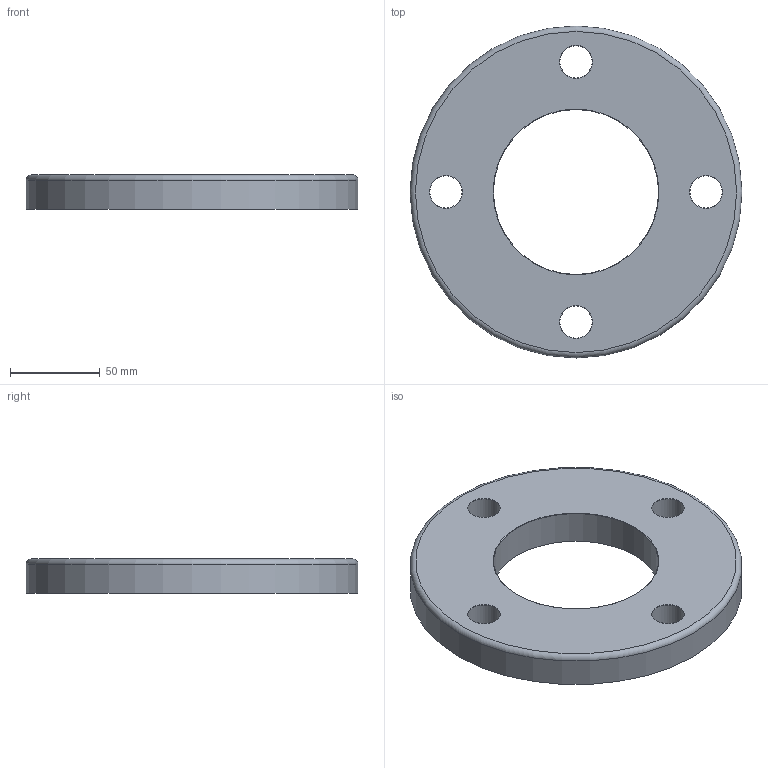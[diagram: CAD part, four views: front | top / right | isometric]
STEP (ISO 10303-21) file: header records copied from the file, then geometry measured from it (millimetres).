
FILE_DESCRIPTION(/* description */ ('PVC-U flangia libera BS 4504 DIN 8063 / PVC-U backing ring drilled to BS 4504 DIN 8063'),/* implementation_level */ '2;1');
FILE_NAME(/* name */ 'C:\Users\POLYPIPE\Desktop\DATASET INVENTOR\LIBRERIA EFFAST\RACCORDI 3DxWEB\RDR\3D_RDRFLD\3D_RDRFLD0750.stp',/* time_stamp */ '2018-01-19T14:22:33+01:00',/* author */ ('POLYPIPE'),/* organization */ ('Polypipe Italia s.r.l.'),/* preprocessor_version */ 'ST-DEVELOPER v16.1',/* originating_system */ 'Autodesk Inventor 2016',/* authorisation */ '');
FILE_SCHEMA (('CONFIG_CONTROL_DESIGN'));
Length unit declared in the file: millimetre
Products named in the file (1): 3D_RDRFLD
Bounding box: 185 x 185 x 19 mm (x, y, z)
Volume: 363961.7 mm3; surface area: 58464.9 mm2
Topology: 1 solids, 1 shells, 14 faces, 30 edges, 18 vertices
Faces by surface type: torus 6, cylinder 6, plane 2
Full cylindrical faces by diameter (mm): 18 x4, 92 x1, 185 x1
Entity records: 368 total; most frequent: DIRECTION 66, CARTESIAN_POINT 51, EDGE_LOOP 36, ORIENTED_EDGE 36, AXIS2_PLACEMENT_3D 33, FACE_BOUND 22, CIRCLE 18, VERTEX_POINT 18
